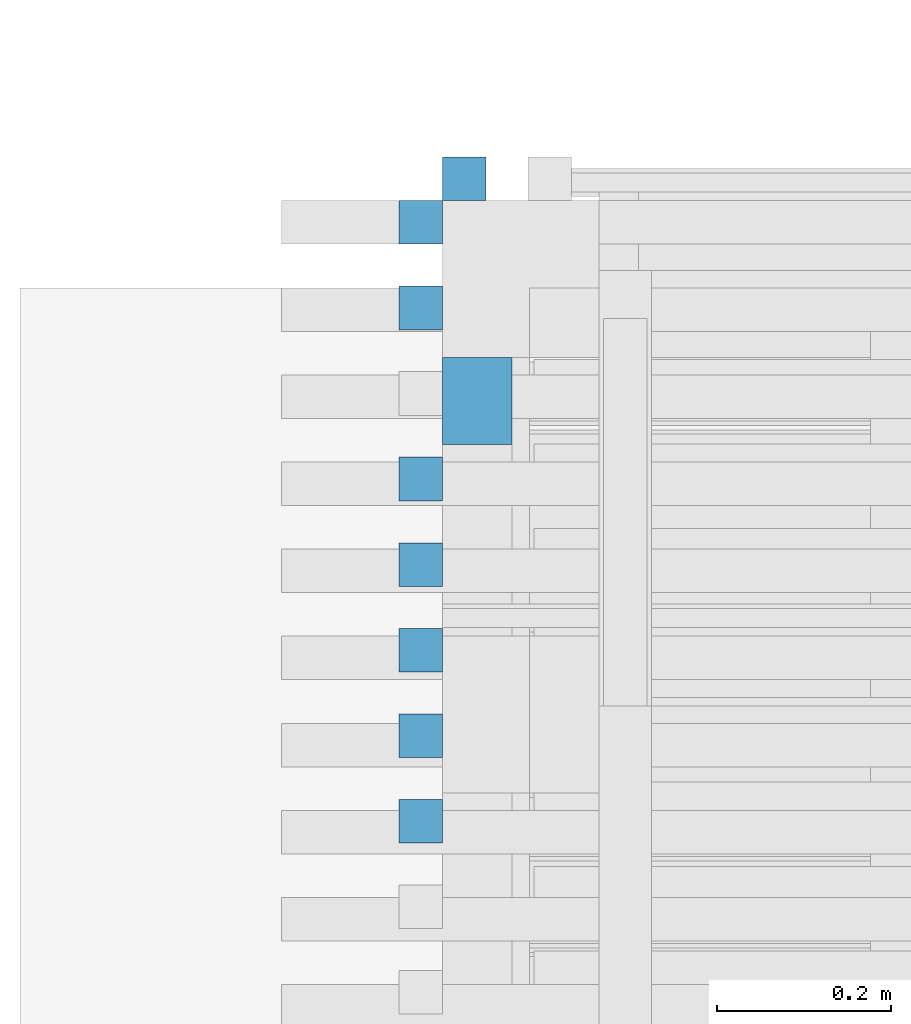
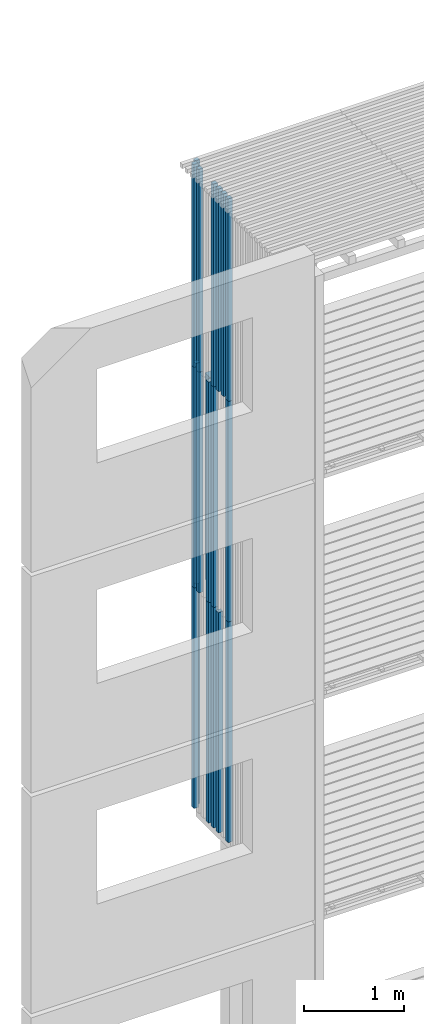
# One storey, part 92 of 182: 20 beams.
"""IFC2X3 building model written with IfcOpenShell, lengths in metres."""

import ifcopenshell
import ifcopenshell.guid

model = None  # the IFC model being written
_history = None  # IfcOwnerHistory: only IFC2X3 demands one
_inside = {}  # id of a spatial element -> (the spatial element, [elements in it])
_under = {}  # id of a project, library or spatial element -> (it, [spatial elements below it])
_declared = {}  # id of a project -> (the project, [libraries it declares])
_typed = {}  # id of a type object -> (the type object, [elements of that type])
_made_of = {}  # id of a material, layer set ... -> (it, [elements and type objects made of it])


def new_model(schema):
    """Start an empty IFC model of exactly this schema.

    Asked for "IFC4X3", IfcOpenShell would pick the latest addendum, in which some entities
    have other attributes; the version numbers below select the first issue.
    IFC2X3 requires an IfcOwnerHistory on every rooted entity: one is made here for all.
    """
    global model, _history
    if schema == "IFC4X3":
        model = ifcopenshell.file(schema_version=(4, 3, 0, 0))
    else:
        model = ifcopenshell.file(schema=schema)
    _inside.clear()
    _under.clear()
    _declared.clear()
    _typed.clear()
    _made_of.clear()
    _history = None
    if model.schema == "IFC2X3":
        org = make("IfcOrganization", Name="unknown")
        user = make(
            "IfcPersonAndOrganization",
            ThePerson=make("IfcPerson", FamilyName="unknown"),
            TheOrganization=org,
        )
        app = make(
            "IfcApplication",
            ApplicationDeveloper=org,
            Version="unknown",
            ApplicationFullName="unknown",
            ApplicationIdentifier="unknown",
        )
        _history = make(
            "IfcOwnerHistory",
            OwningUser=user,
            OwningApplication=app,
            ChangeAction="ADDED",
            CreationDate=0,
        )
    return model


def make(cls, **values):
    """One entity of the class cls with the attributes given. An attribute that is None is left unset."""
    return model.create_entity(
        cls, **{name: value for name, value in values.items() if value is not None}
    )


def rooted(cls, **values):
    """An entity with a GlobalId (a new one), such as an element, a storey or a relation."""
    return make(cls, GlobalId=ifcopenshell.guid.new(), OwnerHistory=_history, **values)


def si_unit(unit_type, name, prefix=None):
    """IfcSIUnit, for example si_unit("LENGTHUNIT", "METRE", prefix="MILLI")."""
    return make("IfcSIUnit", UnitType=unit_type, Prefix=prefix, Name=name)


def assignment(units):
    """IfcUnitAssignment: the units of a project."""
    return None if units is None else make("IfcUnitAssignment", Units=units)


def point(xyz):
    """IfcCartesianPoint."""
    return None if xyz is None else make("IfcCartesianPoint", Coordinates=xyz)


def direction(xyz):
    """IfcDirection."""
    return None if xyz is None else make("IfcDirection", DirectionRatios=xyz)


def frame(location, z_axis=None, x_axis=None):
    """IfcAxis2Placement3D, a coordinate frame: its origin and axes. An axis left out is left unset."""
    return make(
        "IfcAxis2Placement3D",
        Location=point(location),
        Axis=direction(z_axis),
        RefDirection=direction(x_axis),
    )


def origin():
    """The frame at (0, 0, 0) with its axes left unset."""
    return frame((0.0, 0.0, 0.0))


def place(relative_to, where):
    """IfcLocalPlacement: puts the frame where relative to a parent placement (None: the world)."""
    return make(
        "IfcLocalPlacement", PlacementRelTo=relative_to, RelativePlacement=where
    )


def context(
    kind, dimensions, precision=None, world=None, true_north=None, identifier=None
):
    """IfcGeometricRepresentationContext, for example the 3D "Model" context."""
    return make(
        "IfcGeometricRepresentationContext",
        ContextIdentifier=identifier,
        ContextType=kind,
        CoordinateSpaceDimension=dimensions,
        Precision=precision,
        WorldCoordinateSystem=world,
        TrueNorth=true_north,
    )


def project(units=None, contexts=None):
    """IfcProject with its units and contexts."""
    return rooted(
        "IfcProject",
        Name="project",
        RepresentationContexts=contexts,
        UnitsInContext=assignment(units),
    )


def spatial(cls, under=None, at=None, **own):
    """A site, building, storey or space (cls), placed at a placement, below another one or the project."""
    s = rooted(cls, ObjectPlacement=at, **own)
    if under is not None:
        _under.setdefault(under.id(), (under, []))[1].append(s)
    return s


def faces_of(points, faces, orient=None, outer=None):
    """IfcFace entities. A face is a list of loops; a loop is a list of indices into points, from 0.

    orient and outer hold one flag for each loop. By default every Orientation is true, the
    first loop of a face is its IfcFaceOuterBound and the others are IfcFaceBound.
    """
    made = []
    for i, loops in enumerate(faces):
        bounds = []
        for j, loop in enumerate(loops):
            is_outer = j == 0 if outer is None else outer[i][j]
            bounds.append(
                make(
                    "IfcFaceOuterBound" if is_outer else "IfcFaceBound",
                    Bound=make("IfcPolyLoop", Polygon=[points[k] for k in loop]),
                    Orientation=True if orient is None else orient[i][j],
                )
            )
        made.append(make("IfcFace", Bounds=bounds))
    return made


def faceted_brep(points, faces, orient=None, outer=None, voids=None):
    """IfcFacetedBrep: a solid bounded by flat faces; with voids (closed shells), ...WithVoids."""
    shared = [point(p) for p in points]
    hull = make("IfcClosedShell", CfsFaces=faces_of(shared, faces, orient, outer))
    if voids is None:
        return make("IfcFacetedBrep", Outer=hull)
    return make(
        "IfcFacetedBrepWithVoids",
        Outer=hull,
        Voids=[
            make(cls, CfsFaces=faces_of(shared, fs, o, b)) for cls, fs, o, b in voids
        ],
    )


def shape(context_of_items, identifier, shape_type, items):
    """IfcShapeRepresentation: the items that make up one representation, for example the "Body"."""
    return make(
        "IfcShapeRepresentation",
        ContextOfItems=context_of_items,
        RepresentationIdentifier=identifier,
        RepresentationType=shape_type,
        Items=items,
    )


def made_of(thing, what):
    """Note that an element or type object is made of a material, layer set ...; save() writes the relation."""
    if what is not None:
        _made_of.setdefault(what.id(), (what, []))[1].append(thing)
    return thing


def element(
    cls,
    number,
    at=None,
    inside=None,
    cuts=None,
    type_object=None,
    material=None,
    context=None,
    identifier="Body",
    shape_type=None,
    held_by="IfcProductDefinitionShape",
    body=None,
    shapes=None,
    **own,
):
    """One element of the class cls, such as IfcWall. Its Tag is "e" and its number.

    at: its placement. inside: the storey or other place that contains it. cuts: it is an
    opening in that element (IfcRelVoidsElement). A single representation is given by context,
    identifier, shape_type and body (its items); several are given by shapes. held_by: the class
    of the entity that holds the representations. save() writes the other relations.
    """
    e = rooted(cls, Tag="e%d" % number, ObjectPlacement=at, **own)
    if body is not None:
        shapes = [shape(context, identifier, shape_type, body)]
    if shapes is not None:
        e.Representation = make(held_by, Representations=shapes)
    if inside is not None:
        _inside.setdefault(inside.id(), (inside, []))[1].append(e)
    if cuts is not None:
        rooted(
            "IfcRelVoidsElement", RelatingBuildingElement=cuts, RelatedOpeningElement=e
        )
    if type_object is not None:
        _typed.setdefault(type_object.id(), (type_object, []))[1].append(e)
    return made_of(e, material)


def aggregate(whole, parts):
    """IfcRelAggregates: a whole, such as a stair, and the parts it consists of."""
    return rooted("IfcRelAggregates", RelatingObject=whole, RelatedObjects=parts)


def save(model, path):
    """Write the relations noted so far, then the file.

    IfcRelAggregates (storeys below a building ...), IfcRelContainedInSpatialStructure (elements
    in a storey), IfcRelDefinesByType, IfcRelAssociatesMaterial and IfcRelDeclares: one each for
    every whole, place, type object, material and project.
    """
    for whole, parts in _under.values():
        aggregate(whole, parts)
    for where, things in _inside.values():
        rooted(
            "IfcRelContainedInSpatialStructure",
            RelatedElements=things,
            RelatingStructure=where,
        )
    for kind, things in _typed.values():
        rooted("IfcRelDefinesByType", RelatedObjects=things, RelatingType=kind)
    for what, things in _made_of.values():
        rooted("IfcRelAssociatesMaterial", RelatedObjects=things, RelatingMaterial=what)
    for by, libraries in _declared.values():
        rooted("IfcRelDeclares", RelatingContext=by, RelatedDefinitions=libraries)
    model.write(path)


model = new_model("IFC2X3")

# Units and contexts
model_context = context("Model", 3, precision=1e-06, world=origin())
ifc_project = project(units=[si_unit("LENGTHUNIT", "METRE"), si_unit("PLANEANGLEUNIT", "RADIAN")], contexts=[model_context])

# Site, building, storey
site = spatial("IfcSite", under=ifc_project, CompositionType="ELEMENT")
building = spatial("IfcBuilding", under=site, CompositionType="ELEMENT")
storey = spatial("IfcBuildingStorey", under=building, Name="vs", CompositionType="ELEMENT", Elevation=-0.85)

# Beams
placement = place(None, origin())
beam_1_placement = place(placement, frame((42.99040135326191, 6.950532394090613, 5.274999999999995), z_axis=(1.0, 0.0, 0.0), x_axis=(0.0, 0.0, 1.0)))
element("IfcBeam", 1, at=beam_1_placement, inside=storey, Name="Bardage", context=model_context, shape_type="Brep", body=[
    faceted_brep([(2.699999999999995, 0.025000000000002, 0.025000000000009), (2.699999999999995, -0.025000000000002, 0.025000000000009), (2.699999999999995, -0.025000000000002, -0.025000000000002), (2.699999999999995, 0.025000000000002, -0.025000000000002), (1e-15, 0.025000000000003, 0.025000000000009), (2.699999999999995, 0.025000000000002, 0.025000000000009), (2.699999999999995, 0.025000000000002, -0.025000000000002), (1e-15, 0.025000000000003, -0.025000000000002), (1e-15, -0.025000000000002, 0.025000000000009), (1e-15, 0.025000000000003, 0.025000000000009), (1e-15, 0.025000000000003, -0.025000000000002), (1e-15, -0.025000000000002, -0.025000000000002), (1e-15, 0.025000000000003, 0.025000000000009), (1e-15, -0.025000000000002, 0.025000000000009), (2.699999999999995, -0.025000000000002, 0.025000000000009), (2.699999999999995, 0.025000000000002, 0.025000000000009), (1e-15, -0.025000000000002, 0.025000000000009), (1e-15, -0.025000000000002, -0.025000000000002), (2.699999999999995, -0.025000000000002, -0.025000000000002), (2.699999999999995, -0.025000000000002, 0.025000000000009), (1e-15, -0.025000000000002, -0.025000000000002), (1e-15, 0.025000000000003, -0.025000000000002), (2.699999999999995, 0.025000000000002, -0.025000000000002), (2.699999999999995, -0.025000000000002, -0.025000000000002)], [[[0, 1, 2, 3]], [[4, 5, 6, 7]], [[8, 9, 10, 11]], [[12, 13, 14, 15]], [[16, 17, 18, 19]], [[20, 21, 22, 23]]]),
])
beam_2_placement = place(placement, frame((42.99040135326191, 6.65598693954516, 7.974999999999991), z_axis=(1.0, 0.0, 0.0), x_axis=(0.0, 0.0, 1.0)))
element("IfcBeam", 2, at=beam_2_placement, inside=storey, Name="Bardage", context=model_context, shape_type="Brep", body=[
    faceted_brep([(0.0, -0.025000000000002, 0.025000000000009), (0.0, 0.024999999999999, 0.025000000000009), (0.0, 0.024999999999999, -0.025000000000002), (0.0, -0.025000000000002, -0.025000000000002), (2.479999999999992, 0.024999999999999, -0.025000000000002), (2.479999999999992, 0.024999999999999, 0.025000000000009), (2.479999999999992, -0.025000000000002, 0.025000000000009), (2.479999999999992, -0.025000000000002, -0.025000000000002), (0.0, 0.024999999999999, 0.025000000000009), (0.0, -0.025000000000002, 0.025000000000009), (2.479999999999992, -0.025000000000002, 0.025000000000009), (2.479999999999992, 0.024999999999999, 0.025000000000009), (0.0, 0.024999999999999, -0.025000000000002), (0.0, 0.024999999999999, 0.025000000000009), (2.479999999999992, 0.024999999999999, 0.025000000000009), (2.479999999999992, 0.024999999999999, -0.025000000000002), (0.0, -0.025000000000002, -0.025000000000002), (0.0, 0.024999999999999, -0.025000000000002), (2.479999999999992, 0.024999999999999, -0.025000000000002), (2.479999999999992, -0.025000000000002, -0.025000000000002), (2.479999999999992, -0.025000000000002, 0.025000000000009), (0.0, -0.025000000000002, 0.025000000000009), (0.0, -0.025000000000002, -0.025000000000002), (2.479999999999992, -0.025000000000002, -0.025000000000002)], [[[0, 1, 2, 3]], [[4, 5, 6, 7]], [[8, 9, 10, 11]], [[12, 13, 14, 15]], [[16, 17, 18, 19]], [[20, 21, 22, 23]]]),
])
beam_3_placement = place(placement, frame((42.99040135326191, 6.754168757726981, 7.974999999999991), z_axis=(1.0, 0.0, 0.0), x_axis=(0.0, 0.0, 1.0)))
element("IfcBeam", 3, at=beam_3_placement, inside=storey, Name="Bardage", context=model_context, shape_type="Brep", body=[
    faceted_brep([(0.0, -0.024999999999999, 0.025000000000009), (0.0, 0.025000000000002, 0.025000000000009), (0.0, 0.025000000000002, -0.025000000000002), (0.0, -0.024999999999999, -0.025000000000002), (2.479999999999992, 0.025000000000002, -0.025000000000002), (2.479999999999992, 0.025000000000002, 0.025000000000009), (2.479999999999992, -0.024999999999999, 0.025000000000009), (2.479999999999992, -0.024999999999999, -0.025000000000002), (0.0, 0.025000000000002, 0.025000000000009), (0.0, -0.024999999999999, 0.025000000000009), (2.479999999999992, -0.024999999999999, 0.025000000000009), (2.479999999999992, 0.025000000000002, 0.025000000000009), (0.0, 0.025000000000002, -0.025000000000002), (0.0, 0.025000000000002, 0.025000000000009), (2.479999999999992, 0.025000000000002, 0.025000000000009), (2.479999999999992, 0.025000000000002, -0.025000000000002), (0.0, -0.024999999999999, -0.025000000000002), (0.0, 0.025000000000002, -0.025000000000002), (2.479999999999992, 0.025000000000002, -0.025000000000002), (2.479999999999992, -0.024999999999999, -0.025000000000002), (2.479999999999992, -0.024999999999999, 0.025000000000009), (0.0, -0.024999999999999, 0.025000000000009), (0.0, -0.024999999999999, -0.025000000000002), (2.479999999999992, -0.024999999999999, -0.025000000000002)], [[[0, 1, 2, 3]], [[4, 5, 6, 7]], [[8, 9, 10, 11]], [[12, 13, 14, 15]], [[16, 17, 18, 19]], [[20, 21, 22, 23]]]),
])
beam_4_placement = place(placement, frame((42.99040135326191, 6.557805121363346, 7.974999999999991), z_axis=(1.0, 0.0, 0.0), x_axis=(0.0, 0.0, 1.0)))
element("IfcBeam", 4, at=beam_4_placement, inside=storey, Name="Bardage", context=model_context, shape_type="Brep", body=[
    faceted_brep([(0.0, -0.024999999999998, 0.025000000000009), (0.0, 0.024999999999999, 0.025000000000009), (0.0, 0.024999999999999, -0.025000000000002), (0.0, -0.024999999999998, -0.025000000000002), (2.479999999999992, 0.024999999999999, -0.025000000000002), (2.479999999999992, 0.024999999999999, 0.025000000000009), (2.479999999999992, -0.024999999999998, 0.025000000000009), (2.479999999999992, -0.024999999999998, -0.025000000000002), (0.0, 0.024999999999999, 0.025000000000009), (0.0, -0.024999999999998, 0.025000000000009), (2.479999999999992, -0.024999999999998, 0.025000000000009), (2.479999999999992, 0.024999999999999, 0.025000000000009), (0.0, 0.024999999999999, -0.025000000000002), (0.0, 0.024999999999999, 0.025000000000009), (2.479999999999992, 0.024999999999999, 0.025000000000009), (2.479999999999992, 0.024999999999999, -0.025000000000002), (0.0, -0.024999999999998, -0.025000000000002), (0.0, 0.024999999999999, -0.025000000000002), (2.479999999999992, 0.024999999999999, -0.025000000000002), (2.479999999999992, -0.024999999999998, -0.025000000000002), (2.479999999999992, -0.024999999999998, 0.025000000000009), (0.0, -0.024999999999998, 0.025000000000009), (0.0, -0.024999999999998, -0.025000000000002), (2.479999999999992, -0.024999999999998, -0.025000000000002)], [[[0, 1, 2, 3]], [[4, 5, 6, 7]], [[8, 9, 10, 11]], [[12, 13, 14, 15]], [[16, 17, 18, 19]], [[20, 21, 22, 23]]]),
])
beam_5_placement = place(placement, frame((42.99040135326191, 6.852350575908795, 5.274999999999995), z_axis=(1.0, 0.0, 0.0), x_axis=(0.0, 0.0, 1.0)))
element("IfcBeam", 5, at=beam_5_placement, inside=storey, Name="Bardage", context=model_context, shape_type="Brep", body=[
    faceted_brep([(2.699999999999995, 0.024999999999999, 0.025000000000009), (2.699999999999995, -0.024999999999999, 0.025000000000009), (2.699999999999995, -0.024999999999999, -0.025000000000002), (2.699999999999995, 0.024999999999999, -0.025000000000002), (1e-15, 0.024999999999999, 0.025000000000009), (2.699999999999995, 0.024999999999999, 0.025000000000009), (2.699999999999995, 0.024999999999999, -0.025000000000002), (1e-15, 0.024999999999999, -0.025000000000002), (1e-15, -0.024999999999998, 0.025000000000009), (1e-15, 0.024999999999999, 0.025000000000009), (1e-15, 0.024999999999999, -0.025000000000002), (1e-15, -0.024999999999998, -0.025000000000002), (1e-15, 0.024999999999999, 0.025000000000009), (1e-15, -0.024999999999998, 0.025000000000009), (2.699999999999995, -0.024999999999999, 0.025000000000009), (2.699999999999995, 0.024999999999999, 0.025000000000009), (1e-15, -0.024999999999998, 0.025000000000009), (1e-15, -0.024999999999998, -0.025000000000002), (2.699999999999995, -0.024999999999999, -0.025000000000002), (2.699999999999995, -0.024999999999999, 0.025000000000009), (1e-15, -0.024999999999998, -0.025000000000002), (1e-15, 0.024999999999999, -0.025000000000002), (2.699999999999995, 0.024999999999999, -0.025000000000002), (2.699999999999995, -0.024999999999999, -0.025000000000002)], [[[0, 1, 2, 3]], [[4, 5, 6, 7]], [[8, 9, 10, 11]], [[12, 13, 14, 15]], [[16, 17, 18, 19]], [[20, 21, 22, 23]]]),
])
beam_6_placement = place(placement, frame((42.99040135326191, 6.950532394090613, 2.575000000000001), z_axis=(1.0, 0.0, 0.0), x_axis=(0.0, 0.0, 1.0)))
element("IfcBeam", 6, at=beam_6_placement, inside=storey, Name="Bardage", context=model_context, shape_type="Brep", body=[
    faceted_brep([(2.699961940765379, -0.025000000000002, 0.025000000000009), (2.699961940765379, -0.025000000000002, -0.025000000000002), (2.699961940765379, 0.025000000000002, -0.025000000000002), (2.699961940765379, 0.025000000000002, 0.025000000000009), (0.0, -0.025000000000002, 0.025000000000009), (2.699961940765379, -0.025000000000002, 0.025000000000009), (2.699961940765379, 0.025000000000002, 0.025000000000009), (0.0, 0.025000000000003, 0.025000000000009), (0.0, -0.025000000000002, 0.025000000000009), (0.0, 0.025000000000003, 0.025000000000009), (0.0, 0.025000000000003, -0.025000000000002), (0.0, -0.025000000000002, -0.025000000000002), (0.0, -0.025000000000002, 0.025000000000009), (0.0, -0.025000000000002, -0.025000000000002), (2.699961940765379, -0.025000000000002, -0.025000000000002), (2.699961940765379, -0.025000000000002, 0.025000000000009), (0.0, -0.025000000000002, -0.025000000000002), (0.0, 0.025000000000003, -0.025000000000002), (2.699961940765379, 0.025000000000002, -0.025000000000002), (2.699961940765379, -0.025000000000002, -0.025000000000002), (0.0, 0.025000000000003, -0.025000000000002), (0.0, 0.025000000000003, 0.025000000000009), (2.699961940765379, 0.025000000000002, 0.025000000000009), (2.699961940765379, 0.025000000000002, -0.025000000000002)], [[[0, 1, 2, 3]], [[4, 5, 6, 7]], [[8, 9, 10, 11]], [[12, 13, 14, 15]], [[16, 17, 18, 19]], [[20, 21, 22, 23]]]),
])
beam_7_placement = place(placement, frame((42.99040135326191, 7.245077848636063, 5.274999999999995), z_axis=(1.0, 0.0, 0.0), x_axis=(0.0, 3e-15, 1.0)))
element("IfcBeam", 7, at=beam_7_placement, inside=storey, Name="Bardage", context=model_context, shape_type="Brep", body=[
    faceted_brep([(2.699999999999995, 0.02500000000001, 0.025000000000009), (2.699999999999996, -0.024999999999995, 0.025000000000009), (2.699999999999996, -0.024999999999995, -0.025000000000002), (2.699999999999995, 0.02500000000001, -0.025000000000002), (1e-15, 0.025000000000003, 0.025000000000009), (2.699999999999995, 0.02500000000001, 0.025000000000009), (2.699999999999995, 0.02500000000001, -0.025000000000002), (1e-15, 0.025000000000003, -0.025000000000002), (2e-15, -0.025000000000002, 0.025000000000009), (1e-15, 0.025000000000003, 0.025000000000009), (1e-15, 0.025000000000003, -0.025000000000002), (2e-15, -0.025000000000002, -0.025000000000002), (1e-15, 0.025000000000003, 0.025000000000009), (2e-15, -0.025000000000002, 0.025000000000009), (2.699999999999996, -0.024999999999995, 0.025000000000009), (2.699999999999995, 0.02500000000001, 0.025000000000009), (2e-15, -0.025000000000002, 0.025000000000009), (2e-15, -0.025000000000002, -0.025000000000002), (2.699999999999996, -0.024999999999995, -0.025000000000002), (2.699999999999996, -0.024999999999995, 0.025000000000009), (2e-15, -0.025000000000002, -0.025000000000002), (1e-15, 0.025000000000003, -0.025000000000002), (2.699999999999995, 0.02500000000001, -0.025000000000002), (2.699999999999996, -0.024999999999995, -0.025000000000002)], [[[0, 1, 2, 3]], [[4, 5, 6, 7]], [[8, 9, 10, 11]], [[12, 13, 14, 15]], [[16, 17, 18, 19]], [[20, 21, 22, 23]]]),
])
beam_8_placement = place(placement, frame((42.99040135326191, 7.245077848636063, 7.974999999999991), z_axis=(1.0, 0.0, 0.0), x_axis=(0.0, 3e-15, 1.0)))
element("IfcBeam", 8, at=beam_8_placement, inside=storey, Name="Bardage", context=model_context, shape_type="Brep", body=[
    faceted_brep([(0.0, -0.025000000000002, 0.025000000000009), (-1e-15, 0.025000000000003, 0.025000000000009), (-1e-15, 0.025000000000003, -0.025000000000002), (0.0, -0.025000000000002, -0.025000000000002), (2.479999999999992, 0.02500000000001, -0.025000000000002), (2.479999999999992, 0.02500000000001, 0.025000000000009), (2.479999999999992, -0.024999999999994, 0.025000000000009), (2.479999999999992, -0.024999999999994, -0.025000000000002), (-1e-15, 0.025000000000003, 0.025000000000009), (0.0, -0.025000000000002, 0.025000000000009), (2.479999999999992, -0.024999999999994, 0.025000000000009), (2.479999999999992, 0.02500000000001, 0.025000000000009), (-1e-15, 0.025000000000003, -0.025000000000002), (-1e-15, 0.025000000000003, 0.025000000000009), (2.479999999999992, 0.02500000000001, 0.025000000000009), (2.479999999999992, 0.02500000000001, -0.025000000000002), (0.0, -0.025000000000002, -0.025000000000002), (-1e-15, 0.025000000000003, -0.025000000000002), (2.479999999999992, 0.02500000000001, -0.025000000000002), (2.479999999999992, -0.024999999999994, -0.025000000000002), (2.479999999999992, -0.024999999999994, 0.025000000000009), (0.0, -0.025000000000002, 0.025000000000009), (0.0, -0.025000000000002, -0.025000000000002), (2.479999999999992, -0.024999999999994, -0.025000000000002)], [[[0, 1, 2, 3]], [[4, 5, 6, 7]], [[8, 9, 10, 11]], [[12, 13, 14, 15]], [[16, 17, 18, 19]], [[20, 21, 22, 23]]]),
])
beam_9_placement = place(placement, frame((42.99040135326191, 6.852350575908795, 7.974999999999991), z_axis=(1.0, 0.0, 0.0), x_axis=(0.0, 0.0, 1.0)))
element("IfcBeam", 9, at=beam_9_placement, inside=storey, Name="Bardage", context=model_context, shape_type="Brep", body=[
    faceted_brep([(0.0, -0.024999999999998, 0.025000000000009), (0.0, 0.024999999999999, 0.025000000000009), (0.0, 0.024999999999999, -0.025000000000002), (0.0, -0.024999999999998, -0.025000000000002), (2.479999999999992, 0.024999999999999, -0.025000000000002), (2.479999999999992, 0.024999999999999, 0.025000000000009), (2.479999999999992, -0.024999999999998, 0.025000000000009), (2.479999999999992, -0.024999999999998, -0.025000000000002), (0.0, 0.024999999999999, 0.025000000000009), (0.0, -0.024999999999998, 0.025000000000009), (2.479999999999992, -0.024999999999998, 0.025000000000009), (2.479999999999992, 0.024999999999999, 0.025000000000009), (0.0, 0.024999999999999, -0.025000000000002), (0.0, 0.024999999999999, 0.025000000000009), (2.479999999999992, 0.024999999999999, 0.025000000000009), (2.479999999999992, 0.024999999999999, -0.025000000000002), (0.0, -0.024999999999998, -0.025000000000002), (0.0, 0.024999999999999, -0.025000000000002), (2.479999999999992, 0.024999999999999, -0.025000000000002), (2.479999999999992, -0.024999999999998, -0.025000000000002), (2.479999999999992, -0.024999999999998, 0.025000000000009), (0.0, -0.024999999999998, 0.025000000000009), (0.0, -0.024999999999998, -0.025000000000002), (2.479999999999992, -0.024999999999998, -0.025000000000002)], [[[0, 1, 2, 3]], [[4, 5, 6, 7]], [[8, 9, 10, 11]], [[12, 13, 14, 15]], [[16, 17, 18, 19]], [[20, 21, 22, 23]]]),
])
beam_10_placement = place(placement, frame((43.04040135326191, 7.295077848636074, 5.274999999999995), z_axis=(0.0, -1.0, 0.0), x_axis=(0.0, 0.0, 1.0)))
element("IfcBeam", 10, at=beam_10_placement, inside=storey, Name="Bardage", context=model_context, shape_type="Brep", body=[
    faceted_brep([(1e-15, -0.025000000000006, 0.025000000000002), (1e-15, 0.024999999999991, 0.025000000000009), (1e-15, 0.025000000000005, -0.024999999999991), (1e-15, -0.024999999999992, -0.024999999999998), (2.699999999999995, -0.024999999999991, -0.024999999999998), (2.699999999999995, 0.025000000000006, -0.024999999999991), (2.699999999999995, 0.024999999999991, 0.025000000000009), (2.699999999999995, -0.025000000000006, 0.025000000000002), (1e-15, -0.025000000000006, 0.025000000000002), (1e-15, -0.024999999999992, -0.024999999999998), (2.699999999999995, -0.024999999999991, -0.024999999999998), (2.699999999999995, -0.025000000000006, 0.025000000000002), (2.699999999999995, -0.024999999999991, -0.024999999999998), (1e-15, -0.024999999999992, -0.024999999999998), (1e-15, 0.025000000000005, -0.024999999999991), (2.699999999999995, 0.025000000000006, -0.024999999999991), (2.699999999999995, 0.025000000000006, -0.024999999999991), (1e-15, 0.025000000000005, -0.024999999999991), (1e-15, 0.024999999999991, 0.025000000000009), (2.699999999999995, 0.024999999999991, 0.025000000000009), (2.699999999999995, 0.024999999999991, 0.025000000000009), (1e-15, 0.024999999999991, 0.025000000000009), (1e-15, -0.025000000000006, 0.025000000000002), (2.699999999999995, -0.025000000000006, 0.025000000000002)], [[[0, 1, 2, 3]], [[4, 5, 6, 7]], [[8, 9, 10, 11]], [[12, 13, 14, 15]], [[16, 17, 18, 19]], [[20, 21, 22, 23]]]),
])
beam_11_placement = place(placement, frame((42.99040135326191, 7.146896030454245, 5.274999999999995), z_axis=(1.0, 0.0, 0.0), x_axis=(0.0, 0.0, 1.0)))
element("IfcBeam", 11, at=beam_11_placement, inside=storey, Name="Bardage", context=model_context, shape_type="Brep", body=[
    faceted_brep([(2.699999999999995, 0.024999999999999, 0.025000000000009), (2.699999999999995, -0.025000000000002, 0.025000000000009), (2.699999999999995, -0.025000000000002, -0.025000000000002), (2.699999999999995, 0.024999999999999, -0.025000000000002), (1e-15, 0.024999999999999, 0.025000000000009), (2.699999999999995, 0.024999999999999, 0.025000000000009), (2.699999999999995, 0.024999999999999, -0.025000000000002), (1e-15, 0.024999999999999, -0.025000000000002), (1e-15, -0.024999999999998, 0.025000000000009), (1e-15, 0.024999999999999, 0.025000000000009), (1e-15, 0.024999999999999, -0.025000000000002), (1e-15, -0.024999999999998, -0.025000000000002), (1e-15, 0.024999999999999, 0.025000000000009), (1e-15, -0.024999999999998, 0.025000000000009), (2.699999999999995, -0.025000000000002, 0.025000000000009), (2.699999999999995, 0.024999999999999, 0.025000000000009), (1e-15, -0.024999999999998, 0.025000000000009), (1e-15, -0.024999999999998, -0.025000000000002), (2.699999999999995, -0.025000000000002, -0.025000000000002), (2.699999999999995, -0.025000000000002, 0.025000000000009), (1e-15, -0.024999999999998, -0.025000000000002), (1e-15, 0.024999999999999, -0.025000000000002), (2.699999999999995, 0.024999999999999, -0.025000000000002), (2.699999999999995, -0.025000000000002, -0.025000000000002)], [[[0, 1, 2, 3]], [[4, 5, 6, 7]], [[8, 9, 10, 11]], [[12, 13, 14, 15]], [[16, 17, 18, 19]], [[20, 21, 22, 23]]]),
])
beam_12_placement = place(placement, frame((43.04040135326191, 7.295077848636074, 7.974999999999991), z_axis=(0.0, -1.0, 0.0), x_axis=(0.0, 0.0, 1.0)))
element("IfcBeam", 12, at=beam_12_placement, inside=storey, Name="Bardage", context=model_context, shape_type="Brep", body=[
    faceted_brep([(2.479999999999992, -0.025000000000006, 0.025000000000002), (2.479999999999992, -0.024999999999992, -0.024999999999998), (2.479999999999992, 0.025000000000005, -0.024999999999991), (2.479999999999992, 0.024999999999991, 0.025000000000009), (0.0, 0.024999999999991, 0.025000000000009), (0.0, -0.025000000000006, 0.025000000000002), (2.479999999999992, -0.025000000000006, 0.025000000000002), (2.479999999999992, 0.024999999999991, 0.025000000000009), (0.0, -0.025000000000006, 0.025000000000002), (0.0, 0.024999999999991, 0.025000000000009), (0.0, 0.025000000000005, -0.024999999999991), (0.0, -0.024999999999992, -0.024999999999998), (0.0, 0.025000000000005, -0.024999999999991), (0.0, 0.024999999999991, 0.025000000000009), (2.479999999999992, 0.024999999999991, 0.025000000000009), (2.479999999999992, 0.025000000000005, -0.024999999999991), (0.0, -0.024999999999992, -0.024999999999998), (0.0, 0.025000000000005, -0.024999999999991), (2.479999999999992, 0.025000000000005, -0.024999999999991), (2.479999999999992, -0.024999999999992, -0.024999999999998), (2.479999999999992, -0.025000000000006, 0.025000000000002), (0.0, -0.025000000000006, 0.025000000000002), (0.0, -0.024999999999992, -0.024999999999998), (2.479999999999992, -0.024999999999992, -0.024999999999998)], [[[0, 1, 2, 3]], [[4, 5, 6, 7]], [[8, 9, 10, 11]], [[12, 13, 14, 15]], [[16, 17, 18, 19]], [[20, 21, 22, 23]]]),
])
beam_13_placement = place(placement, frame((42.99040135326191, 7.245077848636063, 2.575000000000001), z_axis=(1.0, 0.0, 0.0), x_axis=(0.0, 3e-15, 1.0)))
element("IfcBeam", 13, at=beam_13_placement, inside=storey, Name="Bardage", context=model_context, shape_type="Brep", body=[
    faceted_brep([(2.699961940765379, -0.024999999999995, 0.025000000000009), (2.699961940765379, -0.024999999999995, -0.025000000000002), (2.699961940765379, 0.02500000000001, -0.025000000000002), (2.699961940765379, 0.02500000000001, 0.025000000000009), (0.0, -0.025000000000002, 0.025000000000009), (2.699961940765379, -0.024999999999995, 0.025000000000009), (2.699961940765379, 0.02500000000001, 0.025000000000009), (0.0, 0.025000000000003, 0.025000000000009), (0.0, -0.025000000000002, 0.025000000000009), (0.0, 0.025000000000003, 0.025000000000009), (0.0, 0.025000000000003, -0.025000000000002), (0.0, -0.025000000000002, -0.025000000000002), (0.0, -0.025000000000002, 0.025000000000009), (0.0, -0.025000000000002, -0.025000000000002), (2.699961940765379, -0.024999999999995, -0.025000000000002), (2.699961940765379, -0.024999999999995, 0.025000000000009), (0.0, -0.025000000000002, -0.025000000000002), (0.0, 0.025000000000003, -0.025000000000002), (2.699961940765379, 0.02500000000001, -0.025000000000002), (2.699961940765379, -0.024999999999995, -0.025000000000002), (0.0, 0.025000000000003, -0.025000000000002), (0.0, 0.025000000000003, 0.025000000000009), (2.699961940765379, 0.02500000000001, 0.025000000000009), (2.699961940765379, 0.02500000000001, -0.025000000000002)], [[[0, 1, 2, 3]], [[4, 5, 6, 7]], [[8, 9, 10, 11]], [[12, 13, 14, 15]], [[16, 17, 18, 19]], [[20, 21, 22, 23]]]),
])
beam_14_placement = place(placement, frame((42.99040135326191, 6.557805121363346, 5.274999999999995), z_axis=(1.0, 0.0, 0.0), x_axis=(0.0, 0.0, 1.0)))
element("IfcBeam", 14, at=beam_14_placement, inside=storey, Name="Bardage", context=model_context, shape_type="Brep", body=[
    faceted_brep([(2.699999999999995, 0.024999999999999, 0.025000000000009), (2.699999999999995, -0.024999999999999, 0.025000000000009), (2.699999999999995, -0.024999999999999, -0.025000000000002), (2.699999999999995, 0.024999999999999, -0.025000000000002), (1e-15, 0.024999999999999, 0.025000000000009), (2.699999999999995, 0.024999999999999, 0.025000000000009), (2.699999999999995, 0.024999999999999, -0.025000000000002), (1e-15, 0.024999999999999, -0.025000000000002), (1e-15, -0.024999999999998, 0.025000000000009), (1e-15, 0.024999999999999, 0.025000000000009), (1e-15, 0.024999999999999, -0.025000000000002), (1e-15, -0.024999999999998, -0.025000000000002), (1e-15, 0.024999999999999, 0.025000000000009), (1e-15, -0.024999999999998, 0.025000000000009), (2.699999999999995, -0.024999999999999, 0.025000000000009), (2.699999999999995, 0.024999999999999, 0.025000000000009), (1e-15, -0.024999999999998, 0.025000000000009), (1e-15, -0.024999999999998, -0.025000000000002), (2.699999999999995, -0.024999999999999, -0.025000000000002), (2.699999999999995, -0.024999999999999, 0.025000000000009), (1e-15, -0.024999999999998, -0.025000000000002), (1e-15, 0.024999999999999, -0.025000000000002), (2.699999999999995, 0.024999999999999, -0.025000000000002), (2.699999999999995, -0.024999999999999, -0.025000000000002)], [[[0, 1, 2, 3]], [[4, 5, 6, 7]], [[8, 9, 10, 11]], [[12, 13, 14, 15]], [[16, 17, 18, 19]], [[20, 21, 22, 23]]]),
])
beam_15_placement = place(placement, frame((42.99040135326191, 7.146896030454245, 7.974999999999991), z_axis=(1.0, 0.0, 0.0), x_axis=(0.0, 0.0, 1.0)))
element("IfcBeam", 15, at=beam_15_placement, inside=storey, Name="Bardage", context=model_context, shape_type="Brep", body=[
    faceted_brep([(0.0, -0.024999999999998, 0.025000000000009), (0.0, 0.024999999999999, 0.025000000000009), (0.0, 0.024999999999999, -0.025000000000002), (0.0, -0.024999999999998, -0.025000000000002), (2.479999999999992, 0.024999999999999, -0.025000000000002), (2.479999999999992, 0.024999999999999, 0.025000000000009), (2.479999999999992, -0.025000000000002, 0.025000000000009), (2.479999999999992, -0.025000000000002, -0.025000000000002), (0.0, 0.024999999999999, 0.025000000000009), (0.0, -0.024999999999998, 0.025000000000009), (2.479999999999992, -0.025000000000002, 0.025000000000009), (2.479999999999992, 0.024999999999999, 0.025000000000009), (0.0, 0.024999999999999, -0.025000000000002), (0.0, 0.024999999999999, 0.025000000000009), (2.479999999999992, 0.024999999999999, 0.025000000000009), (2.479999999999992, 0.024999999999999, -0.025000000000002), (0.0, -0.024999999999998, -0.025000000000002), (0.0, 0.024999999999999, -0.025000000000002), (2.479999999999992, 0.024999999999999, -0.025000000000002), (2.479999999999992, -0.025000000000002, -0.025000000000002), (2.479999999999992, -0.025000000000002, 0.025000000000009), (0.0, -0.024999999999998, 0.025000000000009), (0.0, -0.024999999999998, -0.025000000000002), (2.479999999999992, -0.025000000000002, -0.025000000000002)], [[[0, 1, 2, 3]], [[4, 5, 6, 7]], [[8, 9, 10, 11]], [[12, 13, 14, 15]], [[16, 17, 18, 19]], [[20, 21, 22, 23]]]),
])
beam_16_placement = place(placement, frame((42.99040135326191, 6.754168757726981, 2.575000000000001), z_axis=(1.0, 0.0, 0.0), x_axis=(0.0, 0.0, 1.0)))
element("IfcBeam", 16, at=beam_16_placement, inside=storey, Name="Bardage", context=model_context, shape_type="Brep", body=[
    faceted_brep([(2.699961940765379, -0.024999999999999, 0.025000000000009), (2.699961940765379, -0.024999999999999, -0.025000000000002), (2.699961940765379, 0.025000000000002, -0.025000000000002), (2.699961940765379, 0.025000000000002, 0.025000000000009), (0.0, -0.024999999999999, 0.025000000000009), (2.699961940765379, -0.024999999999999, 0.025000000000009), (2.699961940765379, 0.025000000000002, 0.025000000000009), (0.0, 0.025000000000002, 0.025000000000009), (0.0, -0.024999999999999, 0.025000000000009), (0.0, 0.025000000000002, 0.025000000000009), (0.0, 0.025000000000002, -0.025000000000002), (0.0, -0.024999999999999, -0.025000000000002), (0.0, -0.024999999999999, 0.025000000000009), (0.0, -0.024999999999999, -0.025000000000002), (2.699961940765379, -0.024999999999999, -0.025000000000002), (2.699961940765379, -0.024999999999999, 0.025000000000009), (0.0, -0.024999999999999, -0.025000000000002), (0.0, 0.025000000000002, -0.025000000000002), (2.699961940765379, 0.025000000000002, -0.025000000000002), (2.699961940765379, -0.024999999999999, -0.025000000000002), (0.0, 0.025000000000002, -0.025000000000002), (0.0, 0.025000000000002, 0.025000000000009), (2.699961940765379, 0.025000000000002, 0.025000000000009), (2.699961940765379, 0.025000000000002, -0.025000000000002)], [[[0, 1, 2, 3]], [[4, 5, 6, 7]], [[8, 9, 10, 11]], [[12, 13, 14, 15]], [[16, 17, 18, 19]], [[20, 21, 22, 23]]]),
])
beam_17_placement = place(placement, frame((42.99040135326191, 6.852350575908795, 2.575000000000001), z_axis=(1.0, 0.0, 0.0), x_axis=(0.0, 0.0, 1.0)))
element("IfcBeam", 17, at=beam_17_placement, inside=storey, Name="Bardage", context=model_context, shape_type="Brep", body=[
    faceted_brep([(2.699961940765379, -0.024999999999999, 0.025000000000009), (2.699961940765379, -0.024999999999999, -0.025000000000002), (2.699961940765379, 0.024999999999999, -0.025000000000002), (2.699961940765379, 0.024999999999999, 0.025000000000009), (0.0, -0.024999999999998, 0.025000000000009), (2.699961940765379, -0.024999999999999, 0.025000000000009), (2.699961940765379, 0.024999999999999, 0.025000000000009), (0.0, 0.024999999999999, 0.025000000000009), (0.0, -0.024999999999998, 0.025000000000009), (0.0, 0.024999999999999, 0.025000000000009), (0.0, 0.024999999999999, -0.025000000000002), (0.0, -0.024999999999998, -0.025000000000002), (0.0, -0.024999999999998, 0.025000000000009), (0.0, -0.024999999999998, -0.025000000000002), (2.699961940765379, -0.024999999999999, -0.025000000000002), (2.699961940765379, -0.024999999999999, 0.025000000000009), (0.0, -0.024999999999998, -0.025000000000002), (0.0, 0.024999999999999, -0.025000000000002), (2.699961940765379, 0.024999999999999, -0.025000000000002), (2.699961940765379, -0.024999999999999, -0.025000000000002), (0.0, 0.024999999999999, -0.025000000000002), (0.0, 0.024999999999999, 0.025000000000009), (2.699961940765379, 0.024999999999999, 0.025000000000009), (2.699961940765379, 0.024999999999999, -0.025000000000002)], [[[0, 1, 2, 3]], [[4, 5, 6, 7]], [[8, 9, 10, 11]], [[12, 13, 14, 15]], [[16, 17, 18, 19]], [[20, 21, 22, 23]]]),
])
beam_18_placement = place(placement, frame((43.04040135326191, 7.295077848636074, 2.575000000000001), z_axis=(0.0, -1.0, 0.0), x_axis=(0.0, 0.0, 1.0)))
element("IfcBeam", 18, at=beam_18_placement, inside=storey, Name="Bardage", context=model_context, shape_type="Brep", body=[
    faceted_brep([(0.0, -0.025000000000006, 0.025000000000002), (0.0, 0.024999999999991, 0.025000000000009), (0.0, 0.025000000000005, -0.024999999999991), (0.0, -0.024999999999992, -0.024999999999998), (2.699961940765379, 0.025000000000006, -0.024999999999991), (2.699961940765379, 0.024999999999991, 0.025000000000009), (2.699961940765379, -0.025000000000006, 0.025000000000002), (2.699961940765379, -0.024999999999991, -0.024999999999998), (0.0, -0.024999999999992, -0.024999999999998), (0.0, 0.025000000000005, -0.024999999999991), (2.699961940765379, 0.025000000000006, -0.024999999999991), (2.699961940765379, -0.024999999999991, -0.024999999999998), (2.699961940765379, 0.025000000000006, -0.024999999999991), (0.0, 0.025000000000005, -0.024999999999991), (0.0, 0.024999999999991, 0.025000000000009), (2.699961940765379, 0.024999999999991, 0.025000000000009), (2.699961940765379, 0.024999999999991, 0.025000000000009), (0.0, 0.024999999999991, 0.025000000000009), (0.0, -0.025000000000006, 0.025000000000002), (2.699961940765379, -0.025000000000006, 0.025000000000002), (2.699961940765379, -0.025000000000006, 0.025000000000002), (0.0, -0.025000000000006, 0.025000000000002), (0.0, -0.024999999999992, -0.024999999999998), (2.699961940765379, -0.024999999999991, -0.024999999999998)], [[[0, 1, 2, 3]], [[4, 5, 6, 7]], [[8, 9, 10, 11]], [[12, 13, 14, 15]], [[16, 17, 18, 19]], [[20, 21, 22, 23]]]),
])
beam_19_placement = place(placement, frame((42.99040135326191, 6.557805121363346, 2.575000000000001), z_axis=(1.0, 0.0, 0.0), x_axis=(0.0, 0.0, 1.0)))
element("IfcBeam", 19, at=beam_19_placement, inside=storey, Name="Bardage", context=model_context, shape_type="Brep", body=[
    faceted_brep([(2.699961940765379, -0.024999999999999, 0.025000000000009), (2.699961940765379, -0.024999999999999, -0.025000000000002), (2.699961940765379, 0.024999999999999, -0.025000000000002), (2.699961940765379, 0.024999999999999, 0.025000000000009), (0.0, -0.024999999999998, 0.025000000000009), (2.699961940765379, -0.024999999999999, 0.025000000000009), (2.699961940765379, 0.024999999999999, 0.025000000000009), (0.0, 0.024999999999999, 0.025000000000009), (0.0, -0.024999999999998, 0.025000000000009), (0.0, 0.024999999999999, 0.025000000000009), (0.0, 0.024999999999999, -0.025000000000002), (0.0, -0.024999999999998, -0.025000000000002), (0.0, -0.024999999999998, 0.025000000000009), (0.0, -0.024999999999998, -0.025000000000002), (2.699961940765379, -0.024999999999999, -0.025000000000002), (2.699961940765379, -0.024999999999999, 0.025000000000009), (0.0, -0.024999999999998, -0.025000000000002), (0.0, 0.024999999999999, -0.025000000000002), (2.699961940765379, 0.024999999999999, -0.025000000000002), (2.699961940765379, -0.024999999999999, -0.025000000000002), (0.0, 0.024999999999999, -0.025000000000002), (0.0, 0.024999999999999, 0.025000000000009), (2.699961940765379, 0.024999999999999, 0.025000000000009), (2.699961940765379, 0.024999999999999, -0.025000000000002)], [[[0, 1, 2, 3]], [[4, 5, 6, 7]], [[8, 9, 10, 11]], [[12, 13, 14, 15]], [[16, 17, 18, 19]], [[20, 21, 22, 23]]]),
])
beam_20_placement = place(placement, frame((43.055401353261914, 7.04007784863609, 5.446999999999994), z_axis=(0.0, -1.0, 0.0), x_axis=(0.0, 0.0, 1.0)))
element("IfcBeam", 20, at=beam_20_placement, inside=storey, Name="Support bardage", context=model_context, shape_type="Brep", body=[
    faceted_brep([(2.527999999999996, 0.039999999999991, -0.050000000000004), (2.527999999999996, 0.039999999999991, 0.049999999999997), (2.527999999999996, -0.040000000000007, 0.049999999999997), (2.527999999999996, -0.040000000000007, -0.050000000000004), (-1e-15, 0.039999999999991, -0.050000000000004), (2.527999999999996, 0.039999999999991, -0.050000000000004), (2.527999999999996, -0.040000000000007, -0.050000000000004), (-1e-15, -0.040000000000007, -0.050000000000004), (-1e-15, 0.039999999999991, -0.050000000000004), (-1e-15, -0.040000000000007, -0.050000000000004), (-1e-15, -0.040000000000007, 0.049999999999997), (-1e-15, 0.039999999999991, 0.049999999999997), (-1e-15, 0.039999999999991, -0.050000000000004), (-1e-15, 0.039999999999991, 0.049999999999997), (2.527999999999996, 0.039999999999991, 0.049999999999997), (2.527999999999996, 0.039999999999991, -0.050000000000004), (-1e-15, 0.039999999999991, 0.049999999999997), (-1e-15, -0.040000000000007, 0.049999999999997), (2.527999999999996, -0.040000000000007, 0.049999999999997), (2.527999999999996, 0.039999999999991, 0.049999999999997), (-1e-15, -0.040000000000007, 0.049999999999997), (-1e-15, -0.040000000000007, -0.050000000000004), (2.527999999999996, -0.040000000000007, -0.050000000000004), (2.527999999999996, -0.040000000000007, 0.049999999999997)], [[[0, 1, 2, 3]], [[4, 5, 6, 7]], [[8, 9, 10, 11]], [[12, 13, 14, 15]], [[16, 17, 18, 19]], [[20, 21, 22, 23]]]),
])

save(model, "model.ifc")
